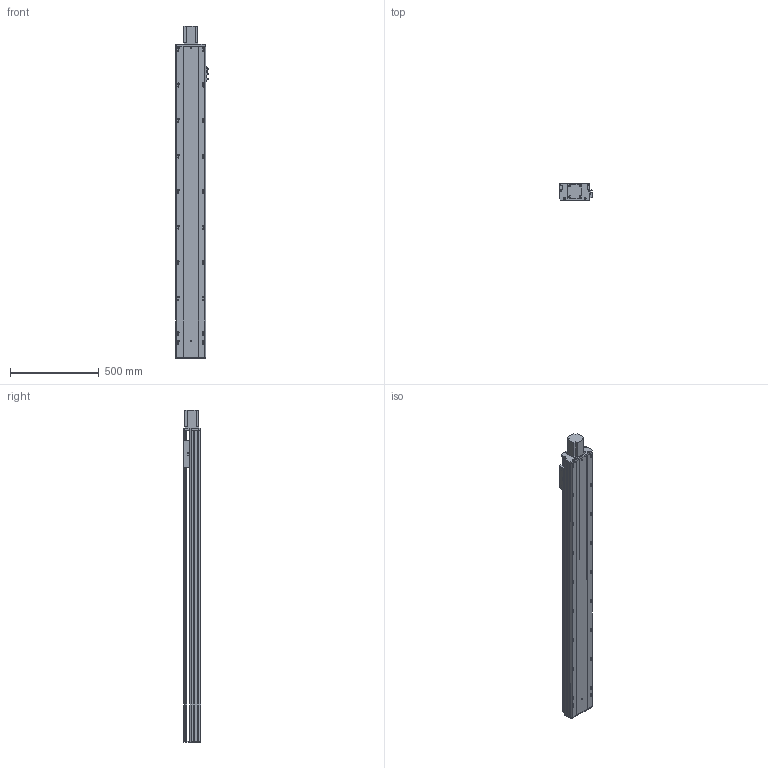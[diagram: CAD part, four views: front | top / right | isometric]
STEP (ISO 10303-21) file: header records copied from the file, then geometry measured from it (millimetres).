
FILE_DESCRIPTION (( 'STEP AP203' ), '1' );
FILE_NAME ('Y170-D10-S1500-BD-P750W.STEP', '2020-01-22T07:17:20', ( '微软用户' ), ( '微软中国' ), 'SwSTEP 2.0', 'SolidWorks 2017', '' );
FILE_SCHEMA (( 'CONFIG_CONTROL_DESIGN' ));
Length unit declared in the file: millimetre
Products named in the file (10): 135-盓傅釱-FK15; 侂狟750W; Y170耜裔--準---; Y170-陔遴奻裔-BD; Y170--雄赽釱-梓--; YD-Y100-135-新外置传感挡片(通用）; Y170-D10-S1500-BD-P750W; Y100-135俋离換覜ん; 170--掛极-BD; Y170-萇儂楊擘啣--
Assembly tree (11 placements, depth 2):
  Y170-D10-S1500-BD-P750W
    YD-Y100-135-新外置传感挡片(通用）
    Y100-135俋离換覜ん  x3
    170--掛极-BD
    Y170-萇儂楊擘啣--
    135-盓傅釱-FK15
    侂狟750W
    Y170耜裔--準---
    Y170-陔遴奻裔-BD
    Y170--雄赽釱-梓--
Bounding box: 183.5 x 97 x 1868.5 mm (x, y, z)
Volume: 7707340.6 mm3; surface area: 2671762.9 mm2
Topology: 11 solids, 11 shells, 864 faces, 2499 edges, 1656 vertices
Faces by surface type: cylinder 474, plane 388, torus 2
Entity records: 28671 total; most frequent: CARTESIAN_POINT 5299, DIRECTION 4745, ORIENTED_EDGE 4662, EDGE_CURVE 2331, AXIS2_PLACEMENT_3D 1718, VERTEX_POINT 1544, VECTOR 1309, LINE 1309
